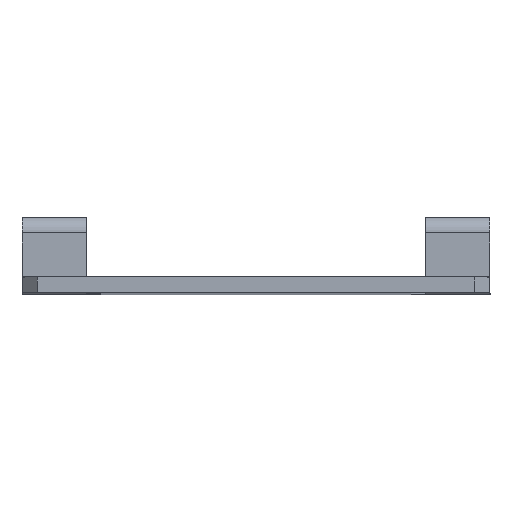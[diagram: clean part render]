
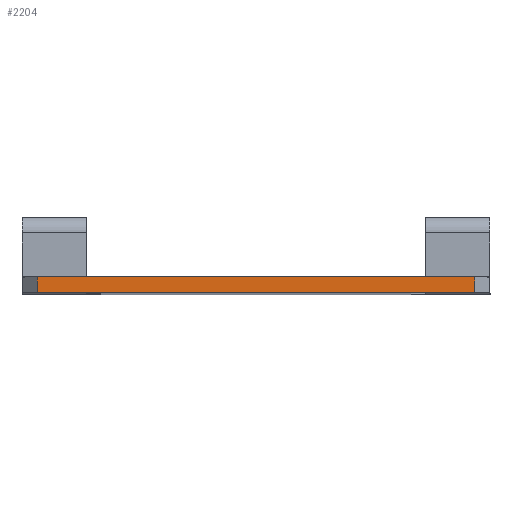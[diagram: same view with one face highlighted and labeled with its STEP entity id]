
A CAD part, top view. The second image highlights one B-rep face of the part: STEP entity #2204.
In plain terms, the highlighted planar face has unit normal (0, 0, 1).
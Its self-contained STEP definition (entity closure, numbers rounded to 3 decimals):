
#397 = EDGE_CURVE ( 'NONE', #2863, #10492, #7620, .T. ) ;
#423 = CARTESIAN_POINT ( 'NONE',  ( -55., 2., 5. ) ) ;
#1611 = CARTESIAN_POINT ( 'NONE',  ( -55., 0., 5. ) ) ;
#1672 = LINE ( 'NONE', #6062, #5923 ) ;
#2089 = AXIS2_PLACEMENT_3D ( 'NONE', #5436, #10833, #5320 ) ;
#2204 = ADVANCED_FACE ( 'NONE', ( #4678 ), #7968, .T. ) ;
#2308 = CARTESIAN_POINT ( 'NONE',  ( -57., 2., 5. ) ) ;
#2403 = EDGE_CURVE ( 'NONE', #4148, #2863, #1672, .T. ) ;
#2461 = CARTESIAN_POINT ( 'NONE',  ( 3., 2., 5. ) ) ;
#2545 = ORIENTED_EDGE ( 'NONE', *, *, #10372, .T. ) ;
#2863 = VERTEX_POINT ( 'NONE', #1611 ) ;
#3376 = DIRECTION ( 'NONE',  ( 1., 0., 0. ) ) ;
#3517 = VERTEX_POINT ( 'NONE', #2461 ) ;
#4031 = CARTESIAN_POINT ( 'NONE',  ( 3., 2., 5. ) ) ;
#4148 = VERTEX_POINT ( 'NONE', #423 ) ;
#4379 = EDGE_CURVE ( 'NONE', #4148, #3517, #10174, .T. ) ;
#4406 = ORIENTED_EDGE ( 'NONE', *, *, #2403, .T. ) ;
#4601 = EDGE_LOOP ( 'NONE', ( #7041, #4406, #9876, #2545 ) ) ;
#4678 = FACE_OUTER_BOUND ( 'NONE', #4601, .T. ) ;
#5320 = DIRECTION ( 'NONE',  ( 1., 0., 0. ) ) ;
#5436 = CARTESIAN_POINT ( 'NONE',  ( -57., 2., 5. ) ) ;
#5459 = CARTESIAN_POINT ( 'NONE',  ( 3., 0., 5. ) ) ;
#5923 = VECTOR ( 'NONE', #11179, 1000. ) ;
#5933 = VECTOR ( 'NONE', #9405, 1000. ) ;
#6062 = CARTESIAN_POINT ( 'NONE',  ( -55., 2., 5. ) ) ;
#7041 = ORIENTED_EDGE ( 'NONE', *, *, #4379, .F. ) ;
#7620 = LINE ( 'NONE', #10112, #5933 ) ;
#7968 = PLANE ( 'NONE',  #2089 ) ;
#8148 = VECTOR ( 'NONE', #9285, 1000. ) ;
#8525 = LINE ( 'NONE', #4031, #8148 ) ;
#8628 = VECTOR ( 'NONE', #3376, 1000. ) ;
#9285 = DIRECTION ( 'NONE',  ( 0., 1., 0. ) ) ;
#9405 = DIRECTION ( 'NONE',  ( 1., 0., 0. ) ) ;
#9876 = ORIENTED_EDGE ( 'NONE', *, *, #397, .T. ) ;
#10112 = CARTESIAN_POINT ( 'NONE',  ( -26., 0., 5. ) ) ;
#10174 = LINE ( 'NONE', #2308, #8628 ) ;
#10372 = EDGE_CURVE ( 'NONE', #10492, #3517, #8525, .T. ) ;
#10492 = VERTEX_POINT ( 'NONE', #5459 ) ;
#10833 = DIRECTION ( 'NONE',  ( 0., 0., 1. ) ) ;
#11179 = DIRECTION ( 'NONE',  ( 0., -1., 0. ) ) ;
